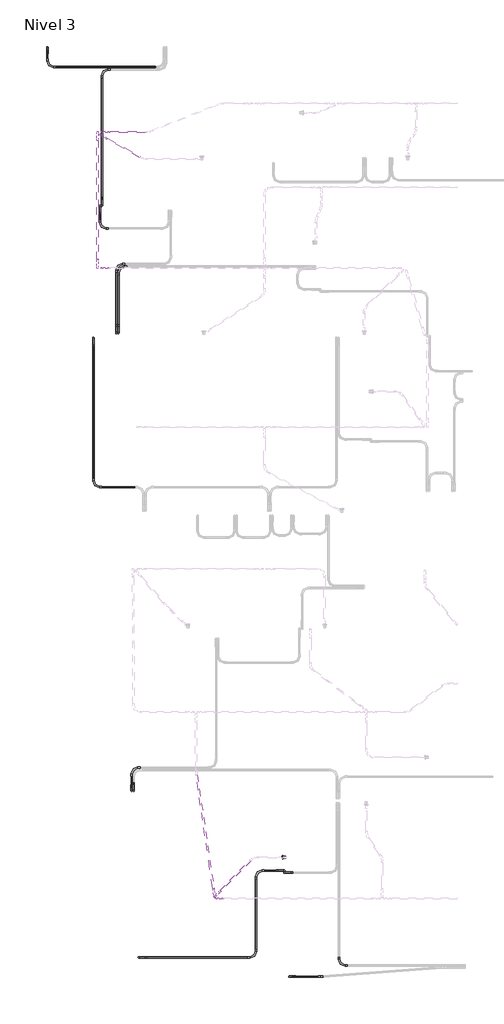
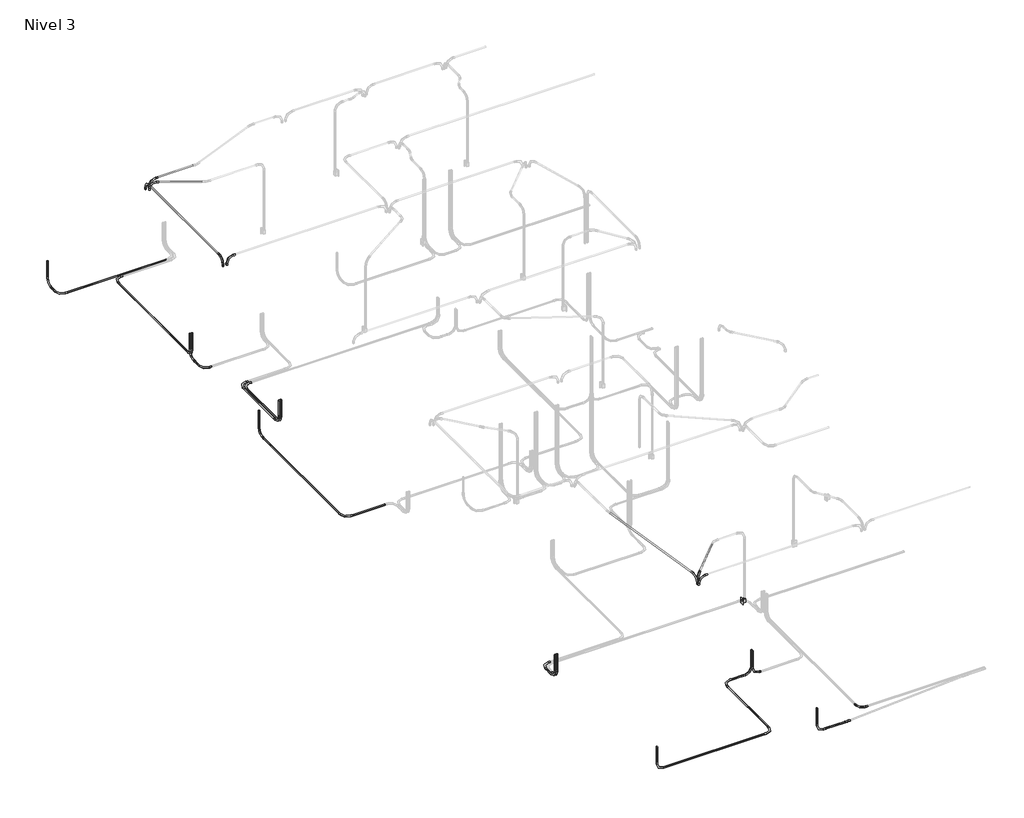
# One storey, part 1 of 9: 31 cable carrier fittings, 30 cable carrier segments, 1 switching device.
"""IFC4 building model written with IfcOpenShell, lengths in millimetres."""

from ifc_helpers import new_model, si_unit, point, frame, frame_2d, origin, place, context, project, spatial, circle_curve, trimmed, segment, composite_curve, outline, extrude, transform, mapped, element, save
from components import m_codo_de_tubo_extremo_liso_pvc_9da73e12, m_codo_de_tubo_extremo_liso_pvc_e945fc89, m_codo_de_tubo_extremo_liso_pvc_102f0f41, switching_device_22fed34b

model = new_model("IFC4")

# Units and contexts
model_context = context("Model", 3, world=origin())
ifc_project = project(units=[si_unit("LENGTHUNIT", "METRE", prefix="MILLI")], contexts=[model_context])

# Site, building, storey
site = spatial("IfcSite", under=ifc_project)
building = spatial("IfcBuilding", under=site)
storey = spatial("IfcBuildingStorey", under=building, Name="Nivel 3", Elevation=5450.0)

# Cable carrier fittings
placement = place(None, origin())
m_codo_de_tubo_extremo_liso_pvc_shape = m_codo_de_tubo_extremo_liso_pvc_9da73e12(model_context)
element("IfcCableCarrierFitting", 1, ObjectType="M_Codo de tubo - Extremo liso - PVC : CODO POTENCIA", at=placement, inside=storey, context=model_context, shape_type="MappedRepresentation", body=[
    mapped(m_codo_de_tubo_extremo_liso_pvc_shape, transform((-1558.5868884, 17544.6371118, 5380.0), x_axis=(0.0, 0.0, -1.0), y_axis=(0.0, -1.0, 0.0), z_axis=(-1.0, 0.0, 0.0))),
])
element("IfcCableCarrierFitting", 2, ObjectType="M_Codo de tubo - Extremo liso - PVC : CODO POTENCIA", at=placement, inside=storey, context=model_context, shape_type="MappedRepresentation", body=[
    mapped(m_codo_de_tubo_extremo_liso_pvc_shape, transform((-717.4920977, 12244.6371118, 5380.0), x_axis=(0.0, 0.0, -1.0), y_axis=(0.0, -1.0, 0.0), z_axis=(-1.0, 0.0, 0.0))),
])
element("IfcCableCarrierFitting", 3, ObjectType="M_Codo de tubo - Extremo liso - PVC : CODO POTENCIA", at=placement, inside=storey, context=model_context, shape_type="MappedRepresentation", body=[
    mapped(m_codo_de_tubo_extremo_liso_pvc_shape, transform((-717.4920977, 9523.463856, 5380.0), x_axis=(0.0, -1.0, 0.0), y_axis=(1.0, 0.0, 0.0), z_axis=(0.0, 0.0, 1.0))),
])
element("IfcCableCarrierFitting", 4, ObjectType="M_Codo de tubo - Extremo liso - PVC : CODO POTENCIA", at=placement, inside=storey, context=model_context, shape_type="MappedRepresentation", body=[
    mapped(m_codo_de_tubo_extremo_liso_pvc_shape, transform((-262.0312302, 13545.7723493, 5380.0), x_axis=(-1.0, 0.0, 0.0), y_axis=(0.0, -1.0, 0.0), z_axis=(0.0, 0.0, 1.0))),
])
element("IfcCableCarrierFitting", 5, ObjectType="M_Codo de tubo - Extremo liso - PVC : CODO POTENCIA", at=placement, inside=storey, context=model_context, shape_type="MappedRepresentation", body=[
    mapped(m_codo_de_tubo_extremo_liso_pvc_shape, transform((-262.0312302, 12335.3628882, 5380.0), x_axis=(0.0, 0.0, -1.0), y_axis=(0.0, 1.0, 0.0), z_axis=(1.0, 0.0, 0.0))),
])
element("IfcCableCarrierFitting", 6, ObjectType="M_Codo de tubo - Extremo liso - PVC : CODO POTENCIA", at=placement, inside=storey, context=model_context, shape_type="MappedRepresentation", body=[
    mapped(m_codo_de_tubo_extremo_liso_pvc_shape, transform((-298.0948698, 13596.0465616, 5380.0), x_axis=(-1.0, 0.0, 0.0), y_axis=(0.0, -1.0, 0.0), z_axis=(0.0, 0.0, 1.0))),
])
element("IfcCableCarrierFitting", 7, ObjectType="M_Codo de tubo - Extremo liso - PVC : CODO POTENCIA", at=placement, inside=storey, context=model_context, shape_type="MappedRepresentation", body=[
    mapped(m_codo_de_tubo_extremo_liso_pvc_shape, transform((-298.0948698, 12335.3628882, 5380.0), x_axis=(0.0, 0.0, -1.0), y_axis=(0.0, 1.0, 0.0), z_axis=(1.0, 0.0, 0.0))),
])
element("IfcCableCarrierFitting", 8, ObjectType="M_Codo de tubo - Extremo liso - PVC : CODO POTENCIA", at=placement, inside=storey, context=model_context, shape_type="MappedRepresentation", body=[
    mapped(m_codo_de_tubo_extremo_liso_pvc_shape, transform((-598.1296744, 14653.8429955, 5380.0), x_axis=(0.0, 0.0, -1.0), y_axis=(0.0, -1.0, 0.0), z_axis=(-1.0, 0.0, 0.0))),
])
element("IfcCableCarrierFitting", 9, ObjectType="M_Codo de tubo - Extremo liso - PVC : CODO POTENCIA", at=placement, inside=storey, context=model_context, shape_type="MappedRepresentation", body=[
    mapped(m_codo_de_tubo_extremo_liso_pvc_shape, transform((-598.1296744, 14243.117219, 5380.0), x_axis=(0.0, -1.0, 0.0), y_axis=(1.0, 0.0, 0.0), z_axis=(0.0, 0.0, 1.0))),
])
element("IfcCableCarrierFitting", 10, ObjectType="M_Codo de tubo - Extremo liso - PVC : CODO POTENCIA", at=placement, inside=storey, context=model_context, shape_type="MappedRepresentation", body=[
    mapped(m_codo_de_tubo_extremo_liso_pvc_shape, transform((-562.0660348, 17141.7513363, 5380.0), x_axis=(-1.0, 0.0, 0.0), y_axis=(0.0, -1.0, 0.0), z_axis=(0.0, 0.0, 1.0))),
])
element("IfcCableCarrierFitting", 11, ObjectType="M_Codo de tubo - Extremo liso - PVC : CODO POTENCIA", at=placement, inside=storey, context=model_context, shape_type="MappedRepresentation", body=[
    mapped(m_codo_de_tubo_extremo_liso_pvc_shape, transform((-562.0660348, 14653.8429955, 5380.0), x_axis=(0.0, 0.0, -1.0), y_axis=(0.0, 1.0, 0.0), z_axis=(1.0, 0.0, 0.0))),
])
element("IfcCableCarrierFitting", 12, ObjectType="M_Codo de tubo - Extremo liso - PVC : CODO POTENCIA", at=placement, inside=storey, context=model_context, shape_type="MappedRepresentation", body=[
    mapped(m_codo_de_tubo_extremo_liso_pvc_shape, transform((-1558.5868884, 17184.6371118, 5380.0), x_axis=(0.0, -1.0, 0.0), y_axis=(1.0, 0.0, 0.0), z_axis=(0.0, 0.0, 1.0))),
])
element("IfcCableCarrierFitting", 13, ObjectType="M_Codo de tubo - Extremo liso - PVC : CODO POTENCIA", at=placement, inside=storey, context=model_context, shape_type="MappedRepresentation", body=[
    mapped(m_codo_de_tubo_extremo_liso_pvc_shape, transform((17.0761068, 3985.3628882, 5380.0), x_axis=(0.0, 0.0, -1.0), y_axis=(0.0, 1.0, 0.0), z_axis=(1.0, 0.0, 0.0))),
])
element("IfcCableCarrierFitting", 14, ObjectType="M_Codo de tubo - Extremo liso - PVC : CODO POTENCIA", at=placement, inside=storey, context=model_context, shape_type="MappedRepresentation", body=[
    mapped(m_codo_de_tubo_extremo_liso_pvc_shape, transform((-18.9875328, 3985.3628882, 5380.0), x_axis=(0.0, 0.0, -1.0), y_axis=(0.0, 1.0, 0.0), z_axis=(1.0, 0.0, 0.0))),
])
element("IfcCableCarrierFitting", 15, ObjectType="M_Codo de tubo - Extremo liso - PVC : CODO POTENCIA", at=placement, inside=storey, context=model_context, shape_type="MappedRepresentation", body=[
    mapped(m_codo_de_tubo_extremo_liso_pvc_shape, transform((-18.9875328, 4410.0, 5380.0), x_axis=(-1.0, 0.0, 0.0), y_axis=(0.0, -1.0, 0.0), z_axis=(0.0, 0.0, 1.0))),
])
element("IfcCableCarrierFitting", 16, ObjectType="M_Codo de tubo - Extremo liso - PVC : CODO POTENCIA", at=placement, inside=storey, context=model_context, shape_type="MappedRepresentation", body=[
    mapped(m_codo_de_tubo_extremo_liso_pvc_shape, transform((105.3628882, 951.2722594, 5380.0), x_axis=(0.0, 0.0, -1.0), y_axis=(1.0, 0.0, 0.0), z_axis=(0.0, -1.0, 0.0))),
])
element("IfcCableCarrierFitting", 17, ObjectType="M_Codo de tubo - Extremo liso - PVC : CODO POTENCIA", at=placement, inside=storey, context=model_context, shape_type="MappedRepresentation", body=[
    mapped(m_codo_de_tubo_extremo_liso_pvc_shape, transform((2855.3628882, 598.5741745, 5380.0), x_axis=(0.0, 0.0, -1.0), y_axis=(1.0, 0.0, 0.0), z_axis=(0.0, -1.0, 0.0))),
])
element("IfcCableCarrierFitting", 18, ObjectType="M_Codo de tubo - Extremo liso - PVC : CODO POTENCIA", at=placement, inside=storey, context=model_context, shape_type="MappedRepresentation", body=[
    mapped(m_codo_de_tubo_extremo_liso_pvc_shape, transform((2764.6371118, 2532.1956779, 5380.0), x_axis=(0.0, 0.0, -1.0), y_axis=(-1.0, 0.0, 0.0), z_axis=(0.0, 1.0, 0.0))),
])
element("IfcCableCarrierFitting", 19, ObjectType="M_Codo de tubo - Extremo liso - PVC : CODO POTENCIA", at=placement, inside=storey, context=model_context, shape_type="MappedRepresentation", body=[
    mapped(m_codo_de_tubo_extremo_liso_pvc_shape, transform((3759.7333421, 805.065499, 5380.0), x_axis=(0.0, -1.0, 0.0), y_axis=(1.0, 0.0, 0.0), z_axis=(0.0, 0.0, 1.0))),
])
element("IfcCableCarrierFitting", 20, ObjectType="M_Codo de tubo - Extremo liso - PVC : CODO POTENCIA", at=placement, inside=storey, context=model_context, shape_type="MappedRepresentation", body=[
    mapped(m_codo_de_tubo_extremo_liso_pvc_shape, transform((2245.3628882, 2532.1956779, 5380.0), x_axis=(-1.0, 0.0, 0.0), y_axis=(0.0, -1.0, 0.0), z_axis=(0.0, 0.0, 1.0))),
])
element("IfcCableCarrierFitting", 21, ObjectType="M_Codo de tubo - Extremo liso - PVC : CODO POTENCIA", at=placement, inside=storey, context=model_context, shape_type="MappedRepresentation", body=[
    mapped(m_codo_de_tubo_extremo_liso_pvc_shape, transform((2245.3628882, 951.2722594, 5380.0), x_axis=(1.0, 0.0, 0.0), y_axis=(0.0, 1.0, 0.0), z_axis=(0.0, 0.0, 1.0))),
])
element("IfcCableCarrierFitting", 22, ObjectType="M_Codo de tubo - Extremo liso - PVC : CODO POTENCIA", at=placement, inside=storey, context=model_context, shape_type="MappedRepresentation", body=[
    mapped(m_codo_de_tubo_extremo_liso_pvc_shape, transform((2764.6371118, 2496.1320383, 5380.0), x_axis=(0.0, 0.0, -1.0), y_axis=(1.0, 0.0, 0.0), z_axis=(0.0, -1.0, 0.0))),
])
m_codo_de_tubo_extremo_liso_pvc_2_shape = m_codo_de_tubo_extremo_liso_pvc_e945fc89(model_context)
element("IfcCableCarrierFitting", 23, ObjectType="M_Codo de tubo - Extremo liso - PVC : CODO POTENCIA", at=placement, inside=storey, context=model_context, shape_type="MappedRepresentation", body=[
    mapped(m_codo_de_tubo_extremo_liso_pvc_2_shape, transform((3425.3628882, 598.5741745, 5380.0), x_axis=(1.0, 0.0, 0.0), y_axis=(0.0, 1.0, 0.0), z_axis=(0.0, 0.0, 1.0))),
])
element("IfcCableCarrierFitting", 24, ObjectType="M_Codo de tubo - Extremo liso - PVC : CODO ILUMINACION", at=placement, inside=storey, context=model_context, shape_type="MappedRepresentation", body=[
    mapped(m_codo_de_tubo_extremo_liso_pvc_shape, transform((-574.4336886, 16001.2965089, 8000.0), x_axis=(-1.0, 0.0, 0.0), y_axis=(0.0, 0.0, -1.0), z_axis=(0.0, -1.0, 0.0))),
])
element("IfcCableCarrierFitting", 25, ObjectType="M_Codo de tubo - Extremo liso - PVC : CODO ILUMINACION", at=placement, inside=storey, context=model_context, shape_type="MappedRepresentation", body=[
    mapped(m_codo_de_tubo_extremo_liso_pvc_shape, transform((-574.7554902, 13521.2601744, 8000.0), x_axis=(-1.0, 0.0, 0.0), y_axis=(0.0, 0.0, -1.0), z_axis=(0.0, -1.0, 0.0))),
])
element("IfcCableCarrierFitting", 26, ObjectType="M_Codo de tubo - Extremo liso - PVC : CODO ILUMINACION", at=placement, inside=storey, context=model_context, shape_type="MappedRepresentation", body=[
    mapped(m_codo_de_tubo_extremo_liso_pvc_shape, transform((-644.8986574, 16001.2965089, 8000.0), x_axis=(0.0, 1.0, 0.0), y_axis=(0.0, 0.0, -1.0), z_axis=(-1.0, 0.0, 0.0))),
])
element("IfcCableCarrierFitting", 27, ObjectType="M_Codo de tubo - Extremo liso - PVC : CODO ILUMINACION", at=placement, inside=storey, context=model_context, shape_type="MappedRepresentation", body=[
    mapped(m_codo_de_tubo_extremo_liso_pvc_shape, transform((-598.987036, 15953.0013122, 8000.0), x_axis=(-0.872280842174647, 0.4890052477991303, 0.0), y_axis=(0.0, 0.0, -1.0000000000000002), z_axis=(-0.4890052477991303, -0.872280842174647, 0.0))),
])
element("IfcCableCarrierFitting", 28, ObjectType="M_Codo de tubo - Extremo liso - PVC : CODO ILUMINACION", at=placement, inside=storey, context=model_context, shape_type="MappedRepresentation", body=[
    mapped(m_codo_de_tubo_extremo_liso_pvc_shape, transform((1504.5487012, 2026.1291573, 8000.0), x_axis=(-1.0, 0.0, 0.0), y_axis=(0.0, 0.0, -1.0), z_axis=(0.0, -1.0, 0.0))),
])
m_codo_de_tubo_extremo_liso_pvc_3_shape = m_codo_de_tubo_extremo_liso_pvc_102f0f41(model_context)
element("IfcCableCarrierFitting", 29, ObjectType="M_Codo de tubo - Extremo liso - PVC : CODO ILUMINACION", at=placement, inside=storey, context=model_context, shape_type="MappedRepresentation", body=[
    mapped(m_codo_de_tubo_extremo_liso_pvc_3_shape, transform((-644.8986574, 13523.5594057, 8000.0), x_axis=(0.0, -1.0, 0.0), y_axis=(0.0, 0.0, 1.0), z_axis=(-1.0, 0.0, 0.0))),
])
element("IfcCableCarrierFitting", 30, ObjectType="M_Codo de tubo - Extremo liso - PVC : CODO ILUMINACION", at=placement, inside=storey, context=model_context, shape_type="MappedRepresentation", body=[
    mapped(m_codo_de_tubo_extremo_liso_pvc_3_shape, transform((1492.8488633, 2054.1019402, 8000.0), x_axis=(-0.7022150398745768, -0.7119649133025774, 0.0), y_axis=(0.0, 0.0, 1.0), z_axis=(-0.7119649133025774, 0.7022150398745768, 0.0))),
])
element("IfcCableCarrierFitting", 31, ObjectType="M_Codo de tubo - Extremo liso - PVC : CODO ILUMINACION", at=placement, inside=storey, context=model_context, shape_type="MappedRepresentation", body=[
    mapped(m_codo_de_tubo_extremo_liso_pvc_3_shape, transform((1493.1029204, 2054.3055612, 8000.0), x_axis=(0.145996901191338, -0.9892850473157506, 0.0), y_axis=(0.0, 0.0, 1.0000000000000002), z_axis=(-0.9892850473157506, -0.145996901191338, 0.0))),
])

# Cable carrier segments
element("IfcCableCarrierSegment", 32, ObjectType="PVC-SEL, POTENCIA", at=placement, inside=storey, context=model_context, shape_type="SweptSolid", body=[
    extrude(outline(composite_curve([segment(trimmed(circle_curve(frame_2d((5380.0, -1558.5868884)), 11.71), [point((5380.0, -1570.2968884))], [point((5368.29, -1558.5868884))], False, "CARTESIAN"), True, "CONTINUOUS"), segment(trimmed(circle_curve(frame_2d((5380.0, -1558.5868884)), 11.71), [point((5368.29, -1558.5868884))], [point((5380.0, -1546.8768884))], False, "CARTESIAN"), True, "CONTINUOUS"), segment(trimmed(circle_curve(frame_2d((5380.0, -1558.5868884)), 11.71), [point((5380.0, -1546.8768884))], [point((5391.71, -1558.5868884))], False, "CARTESIAN"), True, "CONTINUOUS"), segment(trimmed(circle_curve(frame_2d((5380.0, -1558.5868884)), 11.71), [point((5391.71, -1558.5868884))], [point((5380.0, -1570.2968884))], False, "CARTESIAN"), True, "CONTINUOUS")], self_intersect=False)), frame((0.0, 17337.0371118, 0.0), z_axis=(0.0, 1.0, 0.0), x_axis=(0.0, 0.0, 1.0)), (0.0, 0.0, 1.0), 55.2),
])
element("IfcCableCarrierSegment", 33, ObjectType="PVC-SEL, POTENCIA", at=placement, inside=storey, context=model_context, shape_type="SweptSolid", body=[
    extrude(outline(composite_curve([segment(trimmed(circle_curve(frame_2d((-1558.5868884, 17544.6371118)), 11.71), [point((-1546.8768884, 17544.6371118))], [point((-1558.5868884, 17532.9271118))], False, "CARTESIAN"), True, "CONTINUOUS"), segment(trimmed(circle_curve(frame_2d((-1558.5868884, 17544.6371118)), 11.71), [point((-1558.5868884, 17532.9271118))], [point((-1570.2968884, 17544.6371118))], False, "CARTESIAN"), True, "CONTINUOUS"), segment(trimmed(circle_curve(frame_2d((-1558.5868884, 17544.6371118)), 11.71), [point((-1570.2968884, 17544.6371118))], [point((-1558.5868884, 17556.3471118))], False, "CARTESIAN"), True, "CONTINUOUS"), segment(trimmed(circle_curve(frame_2d((-1558.5868884, 17544.6371118)), 11.71), [point((-1558.5868884, 17556.3471118))], [point((-1546.8768884, 17544.6371118))], False, "CARTESIAN"), True, "CONTINUOUS")], self_intersect=False)), frame((0.0, 0.0, 5532.4), z_axis=(0.0, 0.0, 1.0), x_axis=(1.0, 0.0, 0.0)), (0.0, 0.0, 1.0), 297.3020537),
])
element("IfcCableCarrierSegment", 34, ObjectType="PVC-SEL, POTENCIA", at=placement, inside=storey, context=model_context, shape_type="SweptSolid", body=[
    extrude(outline(composite_curve([segment(trimmed(circle_curve(frame_2d((5380.0, -562.0660348)), 11.71), [point((5380.0, -573.7760348))], [point((5368.29, -562.0660348))], False, "CARTESIAN"), True, "CONTINUOUS"), segment(trimmed(circle_curve(frame_2d((5380.0, -562.0660348)), 11.71), [point((5368.29, -562.0660348))], [point((5380.0, -550.3560348))], False, "CARTESIAN"), True, "CONTINUOUS"), segment(trimmed(circle_curve(frame_2d((5380.0, -562.0660348)), 11.71), [point((5380.0, -550.3560348))], [point((5391.71, -562.0660348))], False, "CARTESIAN"), True, "CONTINUOUS"), segment(trimmed(circle_curve(frame_2d((5380.0, -562.0660348)), 11.71), [point((5391.71, -562.0660348))], [point((5380.0, -573.7760348))], False, "CARTESIAN"), True, "CONTINUOUS")], self_intersect=False)), frame((0.0, 14806.2429955, 0.0), z_axis=(0.0, 1.0, 0.0), x_axis=(0.0, 0.0, 1.0)), (0.0, 0.0, 1.0), 2183.1083408),
])
element("IfcCableCarrierSegment", 35, ObjectType="PVC-SEL, POTENCIA", at=placement, inside=storey, context=model_context, shape_type="SweptSolid", body=[
    extrude(outline(composite_curve([segment(trimmed(circle_curve(frame_2d((-562.0660348, 14653.8429955)), 11.71), [point((-550.3560348, 14653.8429955))], [point((-562.0660348, 14642.1329955))], False, "CARTESIAN"), True, "CONTINUOUS"), segment(trimmed(circle_curve(frame_2d((-562.0660348, 14653.8429955)), 11.71), [point((-562.0660348, 14642.1329955))], [point((-573.7760348, 14653.8429955))], False, "CARTESIAN"), True, "CONTINUOUS"), segment(trimmed(circle_curve(frame_2d((-562.0660348, 14653.8429955)), 11.71), [point((-573.7760348, 14653.8429955))], [point((-562.0660348, 14665.5529955))], False, "CARTESIAN"), True, "CONTINUOUS"), segment(trimmed(circle_curve(frame_2d((-562.0660348, 14653.8429955)), 11.71), [point((-562.0660348, 14665.5529955))], [point((-550.3560348, 14653.8429955))], False, "CARTESIAN"), True, "CONTINUOUS")], self_intersect=False)), frame((0.0, 0.0, 5532.4), z_axis=(0.0, 0.0, 1.0), x_axis=(1.0, 0.0, 0.0)), (0.0, 0.0, 1.0), 297.3020537),
])
element("IfcCableCarrierSegment", 36, ObjectType="PVC-SEL, POTENCIA", at=placement, inside=storey, context=model_context, shape_type="SweptSolid", body=[
    extrude(outline(composite_curve([segment(trimmed(circle_curve(frame_2d((5380.0, -717.4920977)), 11.71), [point((5380.0, -729.2020977))], [point((5368.29, -717.4920977))], False, "CARTESIAN"), True, "CONTINUOUS"), segment(trimmed(circle_curve(frame_2d((5380.0, -717.4920977)), 11.71), [point((5368.29, -717.4920977))], [point((5380.0, -705.7820977))], False, "CARTESIAN"), True, "CONTINUOUS"), segment(trimmed(circle_curve(frame_2d((5380.0, -717.4920977)), 11.71), [point((5380.0, -705.7820977))], [point((5391.71, -717.4920977))], False, "CARTESIAN"), True, "CONTINUOUS"), segment(trimmed(circle_curve(frame_2d((5380.0, -717.4920977)), 11.71), [point((5391.71, -717.4920977))], [point((5380.0, -729.2020977))], False, "CARTESIAN"), True, "CONTINUOUS")], self_intersect=False)), frame((0.0, 9675.863856, 0.0), z_axis=(0.0, 1.0, 0.0), x_axis=(0.0, 0.0, 1.0)), (0.0, 0.0, 1.0), 2416.3732558),
])
element("IfcCableCarrierSegment", 37, ObjectType="PVC-SEL, POTENCIA", at=placement, inside=storey, context=model_context, shape_type="SweptSolid", body=[
    extrude(outline(composite_curve([segment(trimmed(circle_curve(frame_2d((-717.4920977, 12244.6371118)), 11.71), [point((-705.7820977, 12244.6371118))], [point((-717.4920977, 12232.9271118))], False, "CARTESIAN"), True, "CONTINUOUS"), segment(trimmed(circle_curve(frame_2d((-717.4920977, 12244.6371118)), 11.71), [point((-717.4920977, 12232.9271118))], [point((-729.2020977, 12244.6371118))], False, "CARTESIAN"), True, "CONTINUOUS"), segment(trimmed(circle_curve(frame_2d((-717.4920977, 12244.6371118)), 11.71), [point((-729.2020977, 12244.6371118))], [point((-717.4920977, 12256.3471118))], False, "CARTESIAN"), True, "CONTINUOUS"), segment(trimmed(circle_curve(frame_2d((-717.4920977, 12244.6371118)), 11.71), [point((-717.4920977, 12256.3471118))], [point((-705.7820977, 12244.6371118))], False, "CARTESIAN"), True, "CONTINUOUS")], self_intersect=False)), frame((0.0, 0.0, 5532.4), z_axis=(0.0, 0.0, 1.0), x_axis=(1.0, 0.0, 0.0)), (0.0, 0.0, 1.0), 297.3020537),
])
element("IfcCableCarrierSegment", 38, ObjectType="PVC-SEL, POTENCIA", at=placement, inside=storey, context=model_context, shape_type="SweptSolid", body=[
    extrude(outline(composite_curve([segment(trimmed(circle_curve(frame_2d((9523.463856, 5380.0)), 11.71), [point((9535.173856, 5380.0))], [point((9523.463856, 5368.29))], False, "CARTESIAN"), True, "CONTINUOUS"), segment(trimmed(circle_curve(frame_2d((9523.463856, 5380.0)), 11.71), [point((9523.463856, 5368.29))], [point((9511.753856, 5380.0))], False, "CARTESIAN"), True, "CONTINUOUS"), segment(trimmed(circle_curve(frame_2d((9523.463856, 5380.0)), 11.71), [point((9511.753856, 5380.0))], [point((9523.463856, 5391.71))], False, "CARTESIAN"), True, "CONTINUOUS"), segment(trimmed(circle_curve(frame_2d((9523.463856, 5380.0)), 11.71), [point((9523.463856, 5391.71))], [point((9535.173856, 5380.0))], False, "CARTESIAN"), True, "CONTINUOUS")], self_intersect=False)), frame((-565.0920977, 0.0, 0.0), z_axis=(1.0, 0.0, 0.0), x_axis=(0.0, 1.0, 0.0)), (0.0, 0.0, 1.0), 607.1395395),
])
element("IfcCableCarrierSegment", 39, ObjectType="PVC-SEL, POTENCIA", at=placement, inside=storey, context=model_context, shape_type="SweptSolid", body=[
    extrude(outline(composite_curve([segment(trimmed(circle_curve(frame_2d((5380.0, -262.0312302)), 11.71), [point((5380.0, -273.7412302))], [point((5368.29, -262.0312302))], False, "CARTESIAN"), True, "CONTINUOUS"), segment(trimmed(circle_curve(frame_2d((5380.0, -262.0312302)), 11.71), [point((5368.29, -262.0312302))], [point((5380.0, -250.3212302))], False, "CARTESIAN"), True, "CONTINUOUS"), segment(trimmed(circle_curve(frame_2d((5380.0, -262.0312302)), 11.71), [point((5380.0, -250.3212302))], [point((5391.71, -262.0312302))], False, "CARTESIAN"), True, "CONTINUOUS"), segment(trimmed(circle_curve(frame_2d((5380.0, -262.0312302)), 11.71), [point((5391.71, -262.0312302))], [point((5380.0, -273.7412302))], False, "CARTESIAN"), True, "CONTINUOUS")], self_intersect=False)), frame((0.0, 12487.7628882, 0.0), z_axis=(0.0, 1.0, 0.0), x_axis=(0.0, 0.0, 1.0)), (0.0, 0.0, 1.0), 905.609461),
])
element("IfcCableCarrierSegment", 40, ObjectType="PVC-SEL, POTENCIA", at=placement, inside=storey, context=model_context, shape_type="SweptSolid", body=[
    extrude(outline(composite_curve([segment(trimmed(circle_curve(frame_2d((-262.0312302, 12335.3628882)), 11.71), [point((-250.3212302, 12335.3628882))], [point((-262.0312302, 12323.6528882))], False, "CARTESIAN"), True, "CONTINUOUS"), segment(trimmed(circle_curve(frame_2d((-262.0312302, 12335.3628882)), 11.71), [point((-262.0312302, 12323.6528882))], [point((-273.7412302, 12335.3628882))], False, "CARTESIAN"), True, "CONTINUOUS"), segment(trimmed(circle_curve(frame_2d((-262.0312302, 12335.3628882)), 11.71), [point((-273.7412302, 12335.3628882))], [point((-262.0312302, 12347.0728882))], False, "CARTESIAN"), True, "CONTINUOUS"), segment(trimmed(circle_curve(frame_2d((-262.0312302, 12335.3628882)), 11.71), [point((-262.0312302, 12347.0728882))], [point((-250.3212302, 12335.3628882))], False, "CARTESIAN"), True, "CONTINUOUS")], self_intersect=False)), frame((0.0, 0.0, 5532.4), z_axis=(0.0, 0.0, 1.0), x_axis=(1.0, 0.0, 0.0)), (0.0, 0.0, 1.0), 297.3020537),
])
element("IfcCableCarrierSegment", 41, ObjectType="PVC-SEL, POTENCIA", at=placement, inside=storey, context=model_context, shape_type="SweptSolid", body=[
    extrude(outline(composite_curve([segment(trimmed(circle_curve(frame_2d((5380.0, -298.0948698)), 11.71), [point((5380.0, -309.8048698))], [point((5368.29, -298.0948698))], False, "CARTESIAN"), True, "CONTINUOUS"), segment(trimmed(circle_curve(frame_2d((5380.0, -298.0948698)), 11.71), [point((5368.29, -298.0948698))], [point((5380.0, -286.3848698))], False, "CARTESIAN"), True, "CONTINUOUS"), segment(trimmed(circle_curve(frame_2d((5380.0, -298.0948698)), 11.71), [point((5380.0, -286.3848698))], [point((5391.71, -298.0948698))], False, "CARTESIAN"), True, "CONTINUOUS"), segment(trimmed(circle_curve(frame_2d((5380.0, -298.0948698)), 11.71), [point((5391.71, -298.0948698))], [point((5380.0, -309.8048698))], False, "CARTESIAN"), True, "CONTINUOUS")], self_intersect=False)), frame((0.0, 12487.7628882, 0.0), z_axis=(0.0, 1.0, 0.0), x_axis=(0.0, 0.0, 1.0)), (0.0, 0.0, 1.0), 955.8836734),
])
element("IfcCableCarrierSegment", 42, ObjectType="PVC-SEL, POTENCIA", at=placement, inside=storey, context=model_context, shape_type="SweptSolid", body=[
    extrude(outline(composite_curve([segment(trimmed(circle_curve(frame_2d((-298.0948698, 12335.3628882)), 11.71), [point((-286.3848698, 12335.3628882))], [point((-298.0948698, 12323.6528882))], False, "CARTESIAN"), True, "CONTINUOUS"), segment(trimmed(circle_curve(frame_2d((-298.0948698, 12335.3628882)), 11.71), [point((-298.0948698, 12323.6528882))], [point((-309.8048698, 12335.3628882))], False, "CARTESIAN"), True, "CONTINUOUS"), segment(trimmed(circle_curve(frame_2d((-298.0948698, 12335.3628882)), 11.71), [point((-309.8048698, 12335.3628882))], [point((-298.0948698, 12347.0728882))], False, "CARTESIAN"), True, "CONTINUOUS"), segment(trimmed(circle_curve(frame_2d((-298.0948698, 12335.3628882)), 11.71), [point((-298.0948698, 12347.0728882))], [point((-286.3848698, 12335.3628882))], False, "CARTESIAN"), True, "CONTINUOUS")], self_intersect=False)), frame((0.0, 0.0, 5532.4), z_axis=(0.0, 0.0, 1.0), x_axis=(1.0, 0.0, 0.0)), (0.0, 0.0, 1.0), 297.3020537),
])
element("IfcCableCarrierSegment", 43, ObjectType="PVC-SEL, POTENCIA", at=placement, inside=storey, context=model_context, shape_type="SweptSolid", body=[
    extrude(outline(composite_curve([segment(trimmed(circle_curve(frame_2d((5380.0, -598.1296744)), 11.71), [point((5380.0, -609.8396744))], [point((5368.29, -598.1296744))], False, "CARTESIAN"), True, "CONTINUOUS"), segment(trimmed(circle_curve(frame_2d((5380.0, -598.1296744)), 11.71), [point((5368.29, -598.1296744))], [point((5380.0, -586.4196744))], False, "CARTESIAN"), True, "CONTINUOUS"), segment(trimmed(circle_curve(frame_2d((5380.0, -598.1296744)), 11.71), [point((5380.0, -586.4196744))], [point((5391.71, -598.1296744))], False, "CARTESIAN"), True, "CONTINUOUS"), segment(trimmed(circle_curve(frame_2d((5380.0, -598.1296744)), 11.71), [point((5391.71, -598.1296744))], [point((5380.0, -609.8396744))], False, "CARTESIAN"), True, "CONTINUOUS")], self_intersect=False)), frame((0.0, 14395.517219, 0.0), z_axis=(0.0, 1.0, 0.0), x_axis=(0.0, 0.0, 1.0)), (0.0, 0.0, 1.0), 105.9257764),
])
element("IfcCableCarrierSegment", 44, ObjectType="PVC-SEL, POTENCIA", at=placement, inside=storey, context=model_context, shape_type="SweptSolid", body=[
    extrude(outline(composite_curve([segment(trimmed(circle_curve(frame_2d((-598.1296744, 14653.8429955)), 11.71), [point((-586.4196744, 14653.8429955))], [point((-598.1296744, 14642.1329955))], False, "CARTESIAN"), True, "CONTINUOUS"), segment(trimmed(circle_curve(frame_2d((-598.1296744, 14653.8429955)), 11.71), [point((-598.1296744, 14642.1329955))], [point((-609.8396744, 14653.8429955))], False, "CARTESIAN"), True, "CONTINUOUS"), segment(trimmed(circle_curve(frame_2d((-598.1296744, 14653.8429955)), 11.71), [point((-609.8396744, 14653.8429955))], [point((-598.1296744, 14665.5529955))], False, "CARTESIAN"), True, "CONTINUOUS"), segment(trimmed(circle_curve(frame_2d((-598.1296744, 14653.8429955)), 11.71), [point((-598.1296744, 14665.5529955))], [point((-586.4196744, 14653.8429955))], False, "CARTESIAN"), True, "CONTINUOUS")], self_intersect=False)), frame((0.0, 0.0, 5532.4), z_axis=(0.0, 0.0, 1.0), x_axis=(1.0, 0.0, 0.0)), (0.0, 0.0, 1.0), 297.3020537),
])
element("IfcCableCarrierSegment", 45, ObjectType="PVC-SEL, POTENCIA", at=placement, inside=storey, context=model_context, shape_type="SweptSolid", body=[
    extrude(outline(composite_curve([segment(trimmed(circle_curve(frame_2d((17184.6371118, 5380.0)), 11.71), [point((17196.3471118, 5380.0))], [point((17184.6371118, 5368.29))], False, "CARTESIAN"), True, "CONTINUOUS"), segment(trimmed(circle_curve(frame_2d((17184.6371118, 5380.0)), 11.71), [point((17184.6371118, 5368.29))], [point((17172.9271118, 5380.0))], False, "CARTESIAN"), True, "CONTINUOUS"), segment(trimmed(circle_curve(frame_2d((17184.6371118, 5380.0)), 11.71), [point((17172.9271118, 5380.0))], [point((17184.6371118, 5391.71))], False, "CARTESIAN"), True, "CONTINUOUS"), segment(trimmed(circle_curve(frame_2d((17184.6371118, 5380.0)), 11.71), [point((17184.6371118, 5391.71))], [point((17196.3471118, 5380.0))], False, "CARTESIAN"), True, "CONTINUOUS")], self_intersect=False)), frame((-1406.1868884, 0.0, 0.0), z_axis=(1.0, 0.0, 0.0), x_axis=(0.0, 1.0, 0.0)), (0.0, 0.0, 1.0), 1825.2785545),
])
element("IfcCableCarrierSegment", 46, ObjectType="PVC-SEL, POTENCIA", at=placement, inside=storey, context=model_context, shape_type="SweptSolid", body=[
    extrude(outline(composite_curve([segment(trimmed(circle_curve(frame_2d((17.0761068, 3985.3628882)), 11.71), [point((28.7861068, 3985.3628882))], [point((17.0761068, 3973.6528882))], False, "CARTESIAN"), True, "CONTINUOUS"), segment(trimmed(circle_curve(frame_2d((17.0761068, 3985.3628882)), 11.71), [point((17.0761068, 3973.6528882))], [point((5.3661068, 3985.3628882))], False, "CARTESIAN"), True, "CONTINUOUS"), segment(trimmed(circle_curve(frame_2d((17.0761068, 3985.3628882)), 11.71), [point((5.3661068, 3985.3628882))], [point((17.0761068, 3997.0728882))], False, "CARTESIAN"), True, "CONTINUOUS"), segment(trimmed(circle_curve(frame_2d((17.0761068, 3985.3628882)), 11.71), [point((17.0761068, 3997.0728882))], [point((28.7861068, 3985.3628882))], False, "CARTESIAN"), True, "CONTINUOUS")], self_intersect=False)), frame((0.0, 0.0, 5532.4), z_axis=(0.0, 0.0, 1.0), x_axis=(1.0, 0.0, 0.0)), (0.0, 0.0, 1.0), 297.3020537),
])
element("IfcCableCarrierSegment", 47, ObjectType="PVC-SEL, POTENCIA", at=placement, inside=storey, context=model_context, shape_type="SweptSolid", body=[
    extrude(outline(composite_curve([segment(trimmed(circle_curve(frame_2d((5380.0, -18.9875328)), 11.71), [point((5380.0, -7.2775328))], [point((5391.71, -18.9875328))], False, "CARTESIAN"), True, "CONTINUOUS"), segment(trimmed(circle_curve(frame_2d((5380.0, -18.9875328)), 11.71), [point((5391.71, -18.9875328))], [point((5380.0, -30.6975328))], False, "CARTESIAN"), True, "CONTINUOUS"), segment(trimmed(circle_curve(frame_2d((5380.0, -18.9875328)), 11.71), [point((5380.0, -30.6975328))], [point((5368.29, -18.9875328))], False, "CARTESIAN"), True, "CONTINUOUS"), segment(trimmed(circle_curve(frame_2d((5380.0, -18.9875328)), 11.71), [point((5368.29, -18.9875328))], [point((5380.0, -7.2775328))], False, "CARTESIAN"), True, "CONTINUOUS")], self_intersect=False)), frame((0.0, 4137.7628882, 0.0), z_axis=(0.0, 1.0, 0.0), x_axis=(0.0, 0.0, 1.0)), (0.0, 0.0, 1.0), 119.8371118),
])
element("IfcCableCarrierSegment", 48, ObjectType="PVC-SEL, POTENCIA", at=placement, inside=storey, context=model_context, shape_type="SweptSolid", body=[
    extrude(outline(composite_curve([segment(trimmed(circle_curve(frame_2d((-18.9875328, 3985.3628882)), 11.71), [point((-7.2775328, 3985.3628882))], [point((-18.9875328, 3973.6528882))], False, "CARTESIAN"), True, "CONTINUOUS"), segment(trimmed(circle_curve(frame_2d((-18.9875328, 3985.3628882)), 11.71), [point((-18.9875328, 3973.6528882))], [point((-30.6975328, 3985.3628882))], False, "CARTESIAN"), True, "CONTINUOUS"), segment(trimmed(circle_curve(frame_2d((-18.9875328, 3985.3628882)), 11.71), [point((-30.6975328, 3985.3628882))], [point((-18.9875328, 3997.0728882))], False, "CARTESIAN"), True, "CONTINUOUS"), segment(trimmed(circle_curve(frame_2d((-18.9875328, 3985.3628882)), 11.71), [point((-18.9875328, 3997.0728882))], [point((-7.2775328, 3985.3628882))], False, "CARTESIAN"), True, "CONTINUOUS")], self_intersect=False)), frame((0.0, 0.0, 5532.4), z_axis=(0.0, 0.0, 1.0), x_axis=(1.0, 0.0, 0.0)), (0.0, 0.0, 1.0), 297.3020537),
])
element("IfcCableCarrierSegment", 49, ObjectType="PVC-SEL, POTENCIA", at=placement, inside=storey, context=model_context, shape_type="SweptSolid", body=[
    extrude(outline(composite_curve([segment(trimmed(circle_curve(frame_2d((951.2722594, 5380.0)), 11.71), [point((939.5622594, 5380.0))], [point((951.2722594, 5391.71))], False, "CARTESIAN"), True, "CONTINUOUS"), segment(trimmed(circle_curve(frame_2d((951.2722594, 5380.0)), 11.71), [point((951.2722594, 5391.71))], [point((962.9822594, 5380.0))], False, "CARTESIAN"), True, "CONTINUOUS"), segment(trimmed(circle_curve(frame_2d((951.2722594, 5380.0)), 11.71), [point((962.9822594, 5380.0))], [point((951.2722594, 5368.29))], False, "CARTESIAN"), True, "CONTINUOUS"), segment(trimmed(circle_curve(frame_2d((951.2722594, 5380.0)), 11.71), [point((951.2722594, 5368.29))], [point((939.5622594, 5380.0))], False, "CARTESIAN"), True, "CONTINUOUS")], self_intersect=False)), frame((257.7628882, 0.0, 0.0), z_axis=(1.0, 0.0, 0.0), x_axis=(0.0, 1.0, 0.0)), (0.0, 0.0, 1.0), 1835.2),
])
element("IfcCableCarrierSegment", 50, ObjectType="PVC-SEL, POTENCIA", at=placement, inside=storey, context=model_context, shape_type="SweptSolid", body=[
    extrude(outline(composite_curve([segment(trimmed(circle_curve(frame_2d((105.3628882, 951.2722594)), 11.71), [point((117.0728882, 951.2722594))], [point((105.3628882, 939.5622594))], False, "CARTESIAN"), True, "CONTINUOUS"), segment(trimmed(circle_curve(frame_2d((105.3628882, 951.2722594)), 11.71), [point((105.3628882, 939.5622594))], [point((93.6528882, 951.2722594))], False, "CARTESIAN"), True, "CONTINUOUS"), segment(trimmed(circle_curve(frame_2d((105.3628882, 951.2722594)), 11.71), [point((93.6528882, 951.2722594))], [point((105.3628882, 962.9822594))], False, "CARTESIAN"), True, "CONTINUOUS"), segment(trimmed(circle_curve(frame_2d((105.3628882, 951.2722594)), 11.71), [point((105.3628882, 962.9822594))], [point((117.0728882, 951.2722594))], False, "CARTESIAN"), True, "CONTINUOUS")], self_intersect=False)), frame((0.0, 0.0, 5532.4), z_axis=(0.0, 0.0, 1.0), x_axis=(1.0, 0.0, 0.0)), (0.0, 0.0, 1.0), 297.3020537),
])
element("IfcCableCarrierSegment", 51, ObjectType="PVC-SEL, POTENCIA", at=placement, inside=storey, context=model_context, shape_type="SweptSolid", body=[
    extrude(outline(composite_curve([segment(trimmed(circle_curve(frame_2d((598.5741745, 5380.0)), 11.71), [point((586.8641745, 5380.0))], [point((598.5741745, 5391.71))], False, "CARTESIAN"), True, "CONTINUOUS"), segment(trimmed(circle_curve(frame_2d((598.5741745, 5380.0)), 11.71), [point((598.5741745, 5391.71))], [point((610.2841745, 5380.0))], False, "CARTESIAN"), True, "CONTINUOUS"), segment(trimmed(circle_curve(frame_2d((598.5741745, 5380.0)), 11.71), [point((610.2841745, 5380.0))], [point((598.5741745, 5368.29))], False, "CARTESIAN"), True, "CONTINUOUS"), segment(trimmed(circle_curve(frame_2d((598.5741745, 5380.0)), 11.71), [point((598.5741745, 5368.29))], [point((586.8641745, 5380.0))], False, "CARTESIAN"), True, "CONTINUOUS")], self_intersect=False)), frame((3007.7628882, 0.0, 0.0), z_axis=(1.0, 0.0, 0.0), x_axis=(0.0, 1.0, 0.0)), (0.0, 0.0, 1.0), 375.1855008),
])
element("IfcCableCarrierSegment", 52, ObjectType="PVC-SEL, POTENCIA", at=placement, inside=storey, context=model_context, shape_type="SweptSolid", body=[
    extrude(outline(composite_curve([segment(trimmed(circle_curve(frame_2d((2855.3628882, 598.5741745)), 11.71), [point((2867.0728882, 598.5741745))], [point((2855.3628882, 586.8641745))], False, "CARTESIAN"), True, "CONTINUOUS"), segment(trimmed(circle_curve(frame_2d((2855.3628882, 598.5741745)), 11.71), [point((2855.3628882, 586.8641745))], [point((2843.6528882, 598.5741745))], False, "CARTESIAN"), True, "CONTINUOUS"), segment(trimmed(circle_curve(frame_2d((2855.3628882, 598.5741745)), 11.71), [point((2843.6528882, 598.5741745))], [point((2855.3628882, 610.2841745))], False, "CARTESIAN"), True, "CONTINUOUS"), segment(trimmed(circle_curve(frame_2d((2855.3628882, 598.5741745)), 11.71), [point((2855.3628882, 610.2841745))], [point((2867.0728882, 598.5741745))], False, "CARTESIAN"), True, "CONTINUOUS")], self_intersect=False)), frame((0.0, 0.0, 5532.4), z_axis=(0.0, 0.0, 1.0), x_axis=(1.0, 0.0, 0.0)), (0.0, 0.0, 1.0), 297.3020537),
])
element("IfcCableCarrierSegment", 53, ObjectType="PVC-SEL, POTENCIA", at=placement, inside=storey, context=model_context, shape_type="SweptSolid", body=[
    extrude(outline(composite_curve([segment(trimmed(circle_curve(frame_2d((2764.6371118, 2496.1320383)), 11.71), [point((2776.3471118, 2496.1320383))], [point((2764.6371118, 2484.4220383))], False, "CARTESIAN"), True, "CONTINUOUS"), segment(trimmed(circle_curve(frame_2d((2764.6371118, 2496.1320383)), 11.71), [point((2764.6371118, 2484.4220383))], [point((2752.9271118, 2496.1320383))], False, "CARTESIAN"), True, "CONTINUOUS"), segment(trimmed(circle_curve(frame_2d((2764.6371118, 2496.1320383)), 11.71), [point((2752.9271118, 2496.1320383))], [point((2764.6371118, 2507.8420383))], False, "CARTESIAN"), True, "CONTINUOUS"), segment(trimmed(circle_curve(frame_2d((2764.6371118, 2496.1320383)), 11.71), [point((2764.6371118, 2507.8420383))], [point((2776.3471118, 2496.1320383))], False, "CARTESIAN"), True, "CONTINUOUS")], self_intersect=False)), frame((0.0, 0.0, 5532.4), z_axis=(0.0, 0.0, 1.0), x_axis=(1.0, 0.0, 0.0)), (0.0, 0.0, 1.0), 297.3020537),
])
element("IfcCableCarrierSegment", 54, ObjectType="PVC-SEL, POTENCIA", at=placement, inside=storey, context=model_context, shape_type="SweptSolid", body=[
    extrude(outline(composite_curve([segment(trimmed(circle_curve(frame_2d((2532.1956779, 5380.0)), 11.71), [point((2543.9056779, 5380.0))], [point((2532.1956779, 5368.29))], False, "CARTESIAN"), True, "CONTINUOUS"), segment(trimmed(circle_curve(frame_2d((2532.1956779, 5380.0)), 11.71), [point((2532.1956779, 5368.29))], [point((2520.4856779, 5380.0))], False, "CARTESIAN"), True, "CONTINUOUS"), segment(trimmed(circle_curve(frame_2d((2532.1956779, 5380.0)), 11.71), [point((2520.4856779, 5380.0))], [point((2532.1956779, 5391.71))], False, "CARTESIAN"), True, "CONTINUOUS"), segment(trimmed(circle_curve(frame_2d((2532.1956779, 5380.0)), 11.71), [point((2532.1956779, 5391.71))], [point((2543.9056779, 5380.0))], False, "CARTESIAN"), True, "CONTINUOUS")], self_intersect=False)), frame((2397.7628882, 0.0, 0.0), z_axis=(1.0, 0.0, 0.0), x_axis=(0.0, 1.0, 0.0)), (0.0, 0.0, 1.0), 214.4742236),
])
element("IfcCableCarrierSegment", 55, ObjectType="PVC-SEL, POTENCIA", at=placement, inside=storey, context=model_context, shape_type="SweptSolid", body=[
    extrude(outline(composite_curve([segment(trimmed(circle_curve(frame_2d((2764.6371118, 2532.1956779)), 11.71), [point((2776.3471118, 2532.1956779))], [point((2764.6371118, 2520.4856779))], False, "CARTESIAN"), True, "CONTINUOUS"), segment(trimmed(circle_curve(frame_2d((2764.6371118, 2532.1956779)), 11.71), [point((2764.6371118, 2520.4856779))], [point((2752.9271118, 2532.1956779))], False, "CARTESIAN"), True, "CONTINUOUS"), segment(trimmed(circle_curve(frame_2d((2764.6371118, 2532.1956779)), 11.71), [point((2752.9271118, 2532.1956779))], [point((2764.6371118, 2543.9056779))], False, "CARTESIAN"), True, "CONTINUOUS"), segment(trimmed(circle_curve(frame_2d((2764.6371118, 2532.1956779)), 11.71), [point((2764.6371118, 2543.9056779))], [point((2776.3471118, 2532.1956779))], False, "CARTESIAN"), True, "CONTINUOUS")], self_intersect=False)), frame((0.0, 0.0, 5532.4), z_axis=(0.0, 0.0, 1.0), x_axis=(1.0, 0.0, 0.0)), (0.0, 0.0, 1.0), 297.3020537),
])
element("IfcCableCarrierSegment", 56, ObjectType="PVC-SEL, POTENCIA", at=placement, inside=storey, context=model_context, shape_type="SweptSolid", body=[
    extrude(outline(composite_curve([segment(trimmed(circle_curve(frame_2d((5380.0, 2245.3628882)), 11.71), [point((5380.0, 2233.6528882))], [point((5368.29, 2245.3628882))], False, "CARTESIAN"), True, "CONTINUOUS"), segment(trimmed(circle_curve(frame_2d((5380.0, 2245.3628882)), 11.71), [point((5368.29, 2245.3628882))], [point((5380.0, 2257.0728882))], False, "CARTESIAN"), True, "CONTINUOUS"), segment(trimmed(circle_curve(frame_2d((5380.0, 2245.3628882)), 11.71), [point((5380.0, 2257.0728882))], [point((5391.71, 2245.3628882))], False, "CARTESIAN"), True, "CONTINUOUS"), segment(trimmed(circle_curve(frame_2d((5380.0, 2245.3628882)), 11.71), [point((5391.71, 2245.3628882))], [point((5380.0, 2233.6528882))], False, "CARTESIAN"), True, "CONTINUOUS")], self_intersect=False)), frame((0.0, 1103.6722594, 0.0), z_axis=(0.0, 1.0, 0.0), x_axis=(0.0, 0.0, 1.0)), (0.0, 0.0, 1.0), 1276.1234184),
])
element("IfcCableCarrierSegment", 57, ObjectType="PVC-SEL ILUMINACION", at=placement, inside=storey, context=model_context, shape_type="SweptSolid", body=[
    extrude(outline(composite_curve([segment(trimmed(circle_curve(frame_2d((16001.2965089, 8000.0)), 11.71), [point((15989.5865089, 8000.0))], [point((16001.2965089, 8011.71))], False, "CARTESIAN"), True, "CONTINUOUS"), segment(trimmed(circle_curve(frame_2d((16001.2965089, 8000.0)), 11.71), [point((16001.2965089, 8011.71))], [point((16013.0065089, 8000.0))], False, "CARTESIAN"), True, "CONTINUOUS"), segment(trimmed(circle_curve(frame_2d((16001.2965089, 8000.0)), 11.71), [point((16013.0065089, 8000.0))], [point((16001.2965089, 7988.29))], False, "CARTESIAN"), True, "CONTINUOUS"), segment(trimmed(circle_curve(frame_2d((16001.2965089, 8000.0)), 11.71), [point((16001.2965089, 7988.29))], [point((15989.5865089, 8000.0))], False, "CARTESIAN"), True, "CONTINUOUS")], self_intersect=False)), frame((-422.0336886, 0.0, 0.0), z_axis=(1.0, 0.0, 0.0), x_axis=(0.0, 1.0, 0.0)), (0.0, 0.0, 1.0), 659.8951756),
])
element("IfcCableCarrierSegment", 58, ObjectType="PVC-SEL ILUMINACION", at=placement, inside=storey, context=model_context, shape_type="SweptSolid", body=[
    extrude(outline(composite_curve([segment(trimmed(circle_curve(frame_2d((8000.0, -644.8986574)), 11.71), [point((8000.0, -633.1886574))], [point((8011.71, -644.8986574))], False, "CARTESIAN"), True, "CONTINUOUS"), segment(trimmed(circle_curve(frame_2d((8000.0, -644.8986574)), 11.71), [point((8011.71, -644.8986574))], [point((8000.0, -656.6086574))], False, "CARTESIAN"), True, "CONTINUOUS"), segment(trimmed(circle_curve(frame_2d((8000.0, -644.8986574)), 11.71), [point((8000.0, -656.6086574))], [point((7988.29, -644.8986574))], False, "CARTESIAN"), True, "CONTINUOUS"), segment(trimmed(circle_curve(frame_2d((8000.0, -644.8986574)), 11.71), [point((7988.29, -644.8986574))], [point((8000.0, -633.1886574))], False, "CARTESIAN"), True, "CONTINUOUS")], self_intersect=False)), frame((0.0, 13675.9594057, 0.0), z_axis=(0.0, 1.0, 0.0), x_axis=(0.0, 0.0, 1.0)), (0.0, 0.0, 1.0), 2172.9371032),
])
element("IfcCableCarrierSegment", 59, ObjectType="PVC-SEL ILUMINACION", at=placement, inside=storey, context=model_context, shape_type="SweptSolid", body=[
    extrude(outline(composite_curve([segment(trimmed(circle_curve(frame_2d((0.0, 11.71)), 11.71), [point((11.7100001, 11.71))], [point((0.0, 0.0))], False, "CARTESIAN"), True, "CONTINUOUS"), segment(trimmed(circle_curve(frame_2d((0.0, 11.71)), 11.71), [point((0.0, 0.0))], [point((-11.7099999, 11.71))], False, "CARTESIAN"), True, "CONTINUOUS"), segment(trimmed(circle_curve(frame_2d((0.0, 11.71)), 11.71), [point((-11.7099999, 11.71))], [point((0.0, 23.42))], False, "CARTESIAN"), True, "CONTINUOUS"), segment(trimmed(circle_curve(frame_2d((0.0, 11.71)), 11.71), [point((0.0, 23.42))], [point((11.7100001, 11.71))], False, "CARTESIAN"), True, "CONTINUOUS")], self_intersect=False)), frame((137.5575545, 15540.090524, 8011.71), z_axis=(-0.872280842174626, 0.4890052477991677, 0.0), x_axis=(0.4890052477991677, 0.872280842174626, 0.0)), (0.0, 0.0, 1.0), 691.9892781),
])
element("IfcCableCarrierSegment", 60, ObjectType="PVC-SEL ILUMINACION", at=placement, inside=storey, context=model_context, shape_type="SweptSolid", body=[
    extrude(outline(composite_curve([segment(trimmed(circle_curve(frame_2d((0.0, 11.71)), 11.71), [point((11.71, 11.71))], [point((0.0, 0.0))], False, "CARTESIAN"), True, "CONTINUOUS"), segment(trimmed(circle_curve(frame_2d((0.0, 11.71)), 11.71), [point((0.0, 0.0))], [point((-11.71, 11.71))], False, "CARTESIAN"), True, "CONTINUOUS"), segment(trimmed(circle_curve(frame_2d((0.0, 11.71)), 11.71), [point((-11.71, 11.71))], [point((0.0, 23.42))], False, "CARTESIAN"), True, "CONTINUOUS"), segment(trimmed(circle_curve(frame_2d((0.0, 11.71)), 11.71), [point((0.0, 23.42))], [point((11.71, 11.71))], False, "CARTESIAN"), True, "CONTINUOUS")], self_intersect=False)), frame((1599.8664354, 2162.605393, 8011.71), z_axis=(0.7022150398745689, 0.7119649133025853, 0.0), x_axis=(0.7119649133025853, -0.7022150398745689, 0.0)), (0.0, 0.0, 1.0), 773.0132613),
])
element("IfcCableCarrierSegment", 61, ObjectType="PVC-SEL ILUMINACION", at=placement, inside=storey, context=model_context, shape_type="SweptSolid", body=[
    extrude(outline(composite_curve([segment(trimmed(circle_curve(frame_2d((0.0, -11.71)), 11.71), [point((-11.71, -11.71))], [point((0.0, 0.0))], False, "CARTESIAN"), True, "CONTINUOUS"), segment(trimmed(circle_curve(frame_2d((0.0, -11.71)), 11.71), [point((0.0, 0.0))], [point((11.71, -11.71))], False, "CARTESIAN"), True, "CONTINUOUS"), segment(trimmed(circle_curve(frame_2d((0.0, -11.71)), 11.71), [point((11.71, -11.71))], [point((0.0, -23.42))], False, "CARTESIAN"), True, "CONTINUOUS"), segment(trimmed(circle_curve(frame_2d((0.0, -11.71)), 11.71), [point((0.0, -23.42))], [point((-11.71, -11.71))], False, "CARTESIAN"), True, "CONTINUOUS")], self_intersect=False)), frame((1470.8529926, 2205.0726024, 7988.29), z_axis=(-0.14599690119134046, 0.9892850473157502, 0.0), x_axis=(0.9892850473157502, 0.14599690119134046, 0.0)), (0.0, 0.0, 1.0), 2097.8756931),
])

# Switching device
switching_device_shape = switching_device_22fed34b(model_context)
element("IfcSwitchingDevice", 62, ObjectType="Interruptor : Tridireccional", at=placement, inside=storey, context=model_context, shape_type="MappedRepresentation", body=[
    mapped(switching_device_shape, transform((2735.0, 2774.0765511, 6650.0), x_axis=(0.0, -1.0, 0.0), y_axis=(0.0, 0.0, 1.0), z_axis=(-1.0, 0.0, 0.0))),
])

save(model, "model.ifc")
